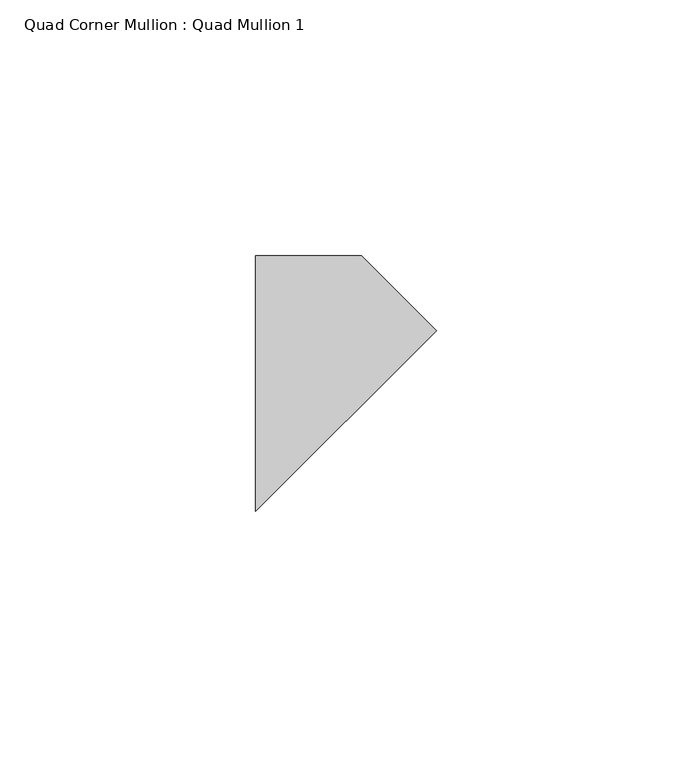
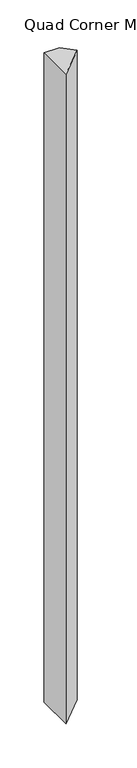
"""IFC4 building model written with IfcOpenShell, lengths in millimetres: member geometry, Quad Corner Mullion : Quad Mullion 1."""

from ifc_helpers import new_model, si_unit, frame, origin, place, context, project, spatial, polyline, outline, extrude, source, transform, mapped, element, save


def quad_corner_mullion_quad_mullion_1_88b7a90a(model_context):
    return source(origin(), model_context, "Body", "SweptSolid", [
        extrude(outline(polyline([(25.0, 10.3553391), (-10.3553391, -25.0), (-10.3553391, 25.0), (10.3553391, 25.0), (25.0, 10.3553391)])), frame((0.0, 0.0, -900.0), z_axis=(0.0, 0.0, 1.0), x_axis=(1.0, 0.0, 0.0)), (0.0, 0.0, 1.0), 900.0),
    ])


if __name__ == "__main__":
    model = new_model("IFC4")
    model_context = context("Model", 3, world=origin())
    ifc_project = project(units=[si_unit("LENGTHUNIT", "METRE", prefix="MILLI")], contexts=[model_context])
    site = spatial("IfcSite", under=ifc_project)
    building = spatial("IfcBuilding", under=site)
    placement = place(None, origin())
    quad_corner_mullion_quad_mullion_1_shape = quad_corner_mullion_quad_mullion_1_88b7a90a(model_context)
    element("IfcMember", 1, ObjectType="Quad Corner Mullion : Quad Mullion 1", at=placement, inside=building, context=model_context, shape_type="MappedRepresentation", body=[
        mapped(quad_corner_mullion_quad_mullion_1_shape, transform((0.0, 0.0, 0.0), x_axis=(1.0, 0.0, 0.0), y_axis=(0.0, 1.0, 0.0), z_axis=(0.0, 0.0, 1.0))),
    ])
    save(model, "model.ifc")
